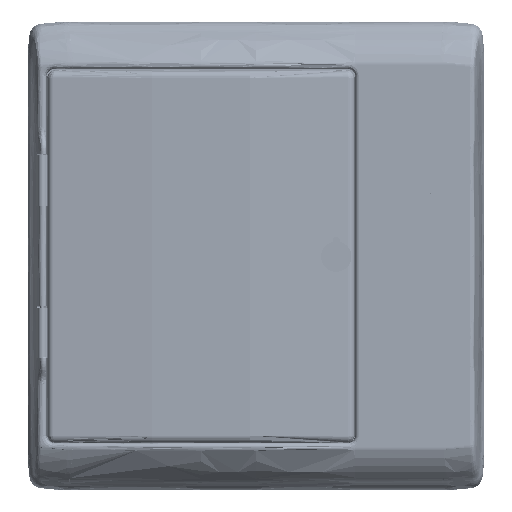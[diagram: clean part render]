
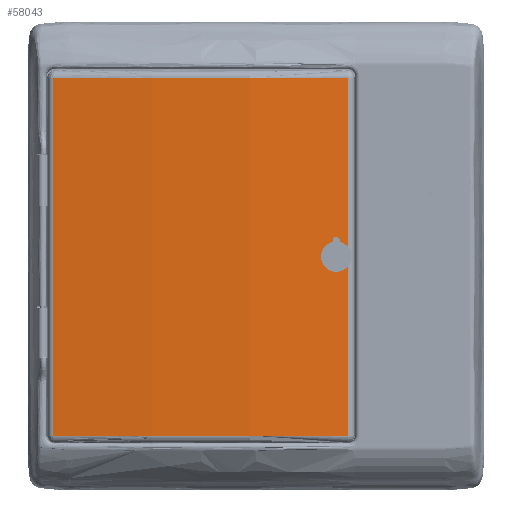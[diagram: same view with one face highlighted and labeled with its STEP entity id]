
A CAD part, top view. The second image highlights one B-rep face of the part: STEP entity #58043.
In plain terms, the highlighted cylindrical face has radius 1410 mm (diameter 2820 mm), a partial arc.
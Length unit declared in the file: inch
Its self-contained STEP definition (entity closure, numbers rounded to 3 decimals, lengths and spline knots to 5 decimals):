
#56881=DIRECTION('',(0.,-1.,0.));
#56882=VECTOR('',#56881,13.81382);
#56883=CARTESIAN_POINT('',(12.45379,30.22666,
-4.83312));
#56884=LINE('',#56883,#56882);
#56885=DIRECTION('',(0.,1.,0.));
#56886=VECTOR('',#56885,13.81382);
#56887=CARTESIAN_POINT('',(1.05834,16.41285,
-4.83311));
#56888=LINE('',#56887,#56886);
#56981=CARTESIAN_POINT('',(6.75607,16.41285,
-60.05173));
#56982=DIRECTION('',(0.,1.,0.));
#56983=DIRECTION('',(-0.103,0.,0.995));
#56984=AXIS2_PLACEMENT_3D('',#56981,#56982,#56983);
#56996=CARTESIAN_POINT('',(6.75607,30.22666,
-60.05173));
#56997=DIRECTION('',(0.,-1.,0.));
#56998=DIRECTION('',(0.103,0.,0.995));
#56999=AXIS2_PLACEMENT_3D('',#56996,#56997,#56998);
#57749=CARTESIAN_POINT('',(1.05834,16.41285,
-4.83311));
#57750=CARTESIAN_POINT('',(1.05834,30.22666,
-4.83311));
#57751=VERTEX_POINT('',#57749);
#57752=VERTEX_POINT('',#57750);
#57761=CARTESIAN_POINT('',(12.45379,30.22666,
-4.83312));
#57762=CARTESIAN_POINT('',(12.45379,16.41285,
-4.83312));
#57763=VERTEX_POINT('',#57761);
#57764=VERTEX_POINT('',#57762);
#58029=CARTESIAN_POINT('',(6.75607,30.51666,
-60.05173));
#58030=DIRECTION('',(0.,1.,0.));
#58031=DIRECTION('',(1.,0.,0.));
#58032=AXIS2_PLACEMENT_3D('',#58029,#58030,#58031);
#58033=CYLINDRICAL_SURFACE('',#58032,55.51181);
#58035=ORIENTED_EDGE('',*,*,#58034,.T.);
#58037=ORIENTED_EDGE('',*,*,#58036,.F.);
#58038=ORIENTED_EDGE('',*,*,#58005,.T.);
#58040=ORIENTED_EDGE('',*,*,#58039,.F.);
#58041=EDGE_LOOP('',(#58035,#58037,#58038,#58040));
#58042=FACE_OUTER_BOUND('',#58041,.F.);
#58043=ADVANCED_FACE('',(#58042),#58033,.T.);
#56985=CIRCLE('',#56984,55.51181);
#57000=CIRCLE('',#56999,55.51181);
#58005=EDGE_CURVE('',#57751,#57752,#56888,.T.);
#58034=EDGE_CURVE('',#57763,#57764,#56884,.T.);
#58036=EDGE_CURVE('',#57751,#57764,#56985,.T.);
#58039=EDGE_CURVE('',#57763,#57752,#57000,.T.);
